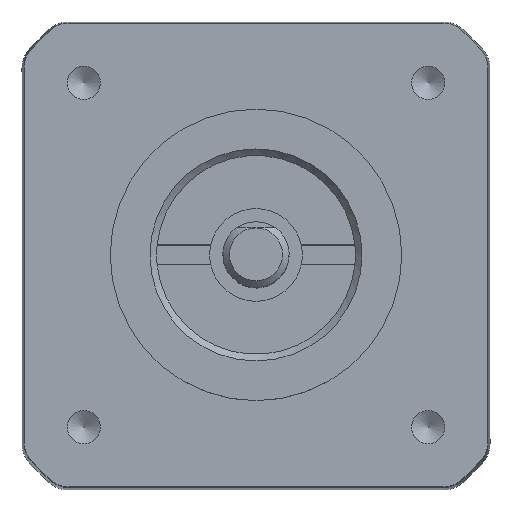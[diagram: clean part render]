
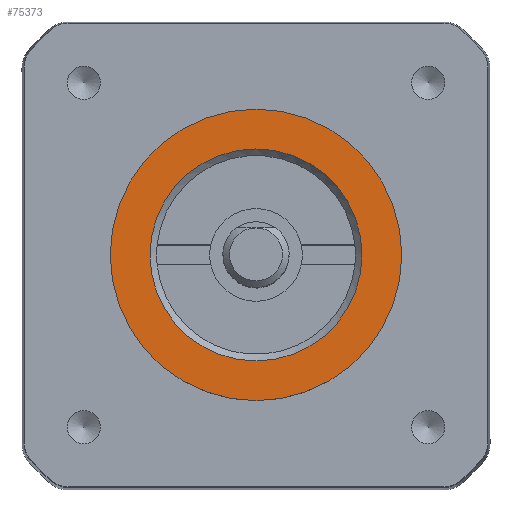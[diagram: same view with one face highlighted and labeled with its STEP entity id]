
A CAD part, top view. The second image highlights one B-rep face of the part: STEP entity #75373.
In plain terms, the highlighted planar face has unit normal (0, 0, 1).
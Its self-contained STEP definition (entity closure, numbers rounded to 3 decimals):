
#865 = EDGE_LOOP ( 'NONE', ( #3817 ) ) ;
#1987 = VERTEX_POINT ( 'NONE', #79547 ) ;
#2272 = CARTESIAN_POINT ( 'NONE',  ( 0., 0., 28.75 ) ) ;
#3817 = ORIENTED_EDGE ( 'NONE', *, *, #13882, .F. ) ;
#7567 = CIRCLE ( 'NONE', #25073, 11. ) ;
#12873 = FACE_BOUND ( 'NONE', #865, .T. ) ;
#13266 = CIRCLE ( 'NONE', #72836, 8. ) ;
#13882 = EDGE_CURVE ( 'NONE', #77859, #77859, #13266, .T. ) ;
#15433 = DIRECTION ( 'NONE',  ( 1., 0., 0. ) ) ;
#16542 = EDGE_LOOP ( 'NONE', ( #78827 ) ) ;
#16621 = AXIS2_PLACEMENT_3D ( 'NONE', #2272, #60806, #15433 ) ;
#25073 = AXIS2_PLACEMENT_3D ( 'NONE', #28029, #33567, #59484 ) ;
#28029 = CARTESIAN_POINT ( 'NONE',  ( 0., 0., 28.75 ) ) ;
#29043 = DIRECTION ( 'NONE',  ( 0., 0., 1. ) ) ;
#33567 = DIRECTION ( 'NONE',  ( 0., 0., 1. ) ) ;
#35694 = EDGE_CURVE ( 'NONE', #1987, #1987, #7567, .T. ) ;
#38758 = FACE_OUTER_BOUND ( 'NONE', #16542, .T. ) ;
#45213 = CARTESIAN_POINT ( 'NONE',  ( 8., 0., 28.75 ) ) ;
#59484 = DIRECTION ( 'NONE',  ( 1., 0., 0. ) ) ;
#60806 = DIRECTION ( 'NONE',  ( 0., 0., 1. ) ) ;
#64624 = PLANE ( 'NONE',  #16621 ) ;
#66852 = CARTESIAN_POINT ( 'NONE',  ( 0., 0., 28.75 ) ) ;
#67271 = DIRECTION ( 'NONE',  ( 1., 0., 0. ) ) ;
#72836 = AXIS2_PLACEMENT_3D ( 'NONE', #66852, #29043, #67271 ) ;
#75373 = ADVANCED_FACE ( 'NONE', ( #12873, #38758 ), #64624, .T. ) ;
#77859 = VERTEX_POINT ( 'NONE', #45213 ) ;
#78827 = ORIENTED_EDGE ( 'NONE', *, *, #35694, .T. ) ;
#79547 = CARTESIAN_POINT ( 'NONE',  ( 11., 0., 28.75 ) ) ;
